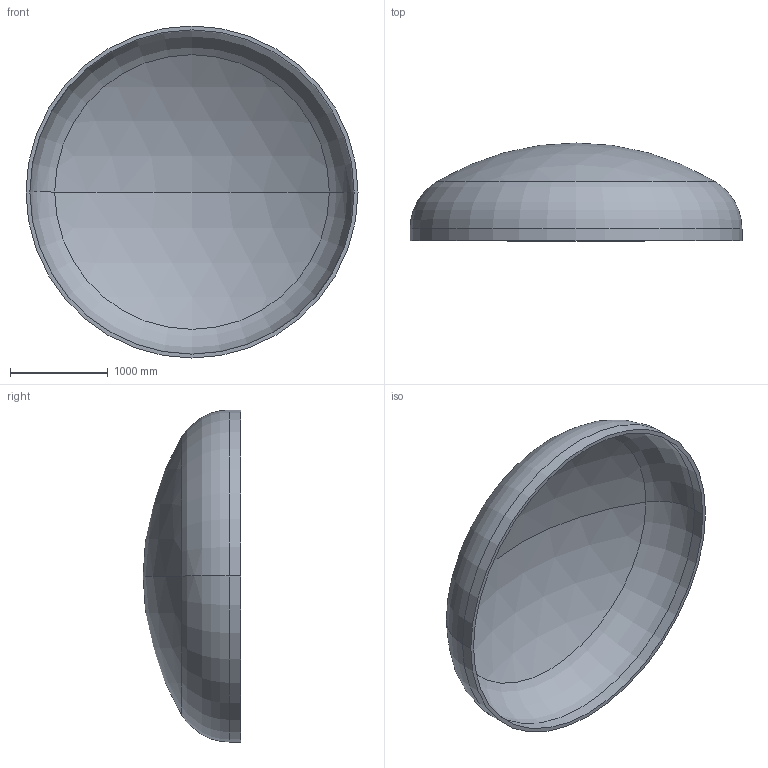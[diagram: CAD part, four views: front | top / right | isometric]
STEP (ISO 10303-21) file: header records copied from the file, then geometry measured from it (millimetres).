
FILE_DESCRIPTION (( 'STEP AP203' ), '1' );
FILE_NAME ('DIN 28013 Korbbogenform_-_Boden DIN 28013 - 3400 x 120 - I - s=40.step', '2016-07-01T19:29:08', ( '' ), ( '' ), 'SwSTEP 2.0', 'SolidWorks 2013', '' );
FILE_SCHEMA (( 'CONFIG_CONTROL_DESIGN' ));
Length unit declared in the file: millimetre
Products named in the file (1): DIN 28013 Korbbogenform_-_Boden DIN 28013 - 3400 x 120 - I - s=40
Bounding box: 3400 x 1001.22 x 3400 mm (x, y, z)
Volume: 546146744.9 mm3; surface area: 27732908.5 mm2
Topology: 1 solids, 1 shells, 13 faces, 24 edges, 14 vertices
Faces by surface type: torus 4, cylinder 4, sphere 4, plane 1
Entity records: 407 total; most frequent: DIRECTION 72, CARTESIAN_POINT 52, ORIENTED_EDGE 48, AXIS2_PLACEMENT_3D 34, EDGE_CURVE 24, CIRCLE 20, VERTEX_POINT 14, EDGE_LOOP 14
